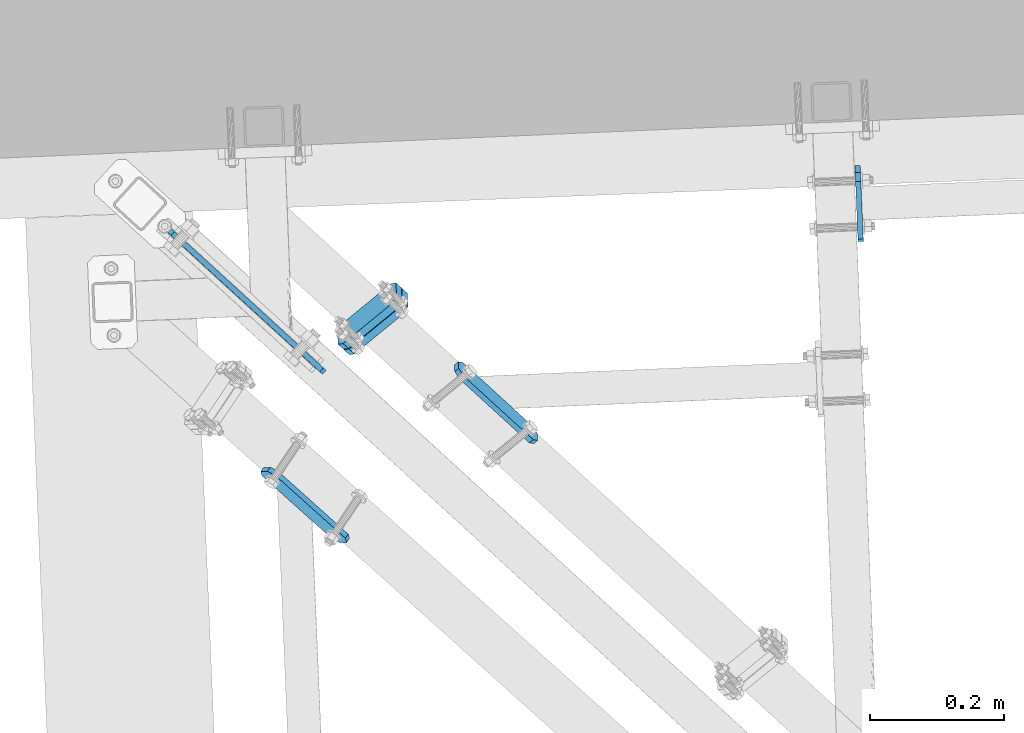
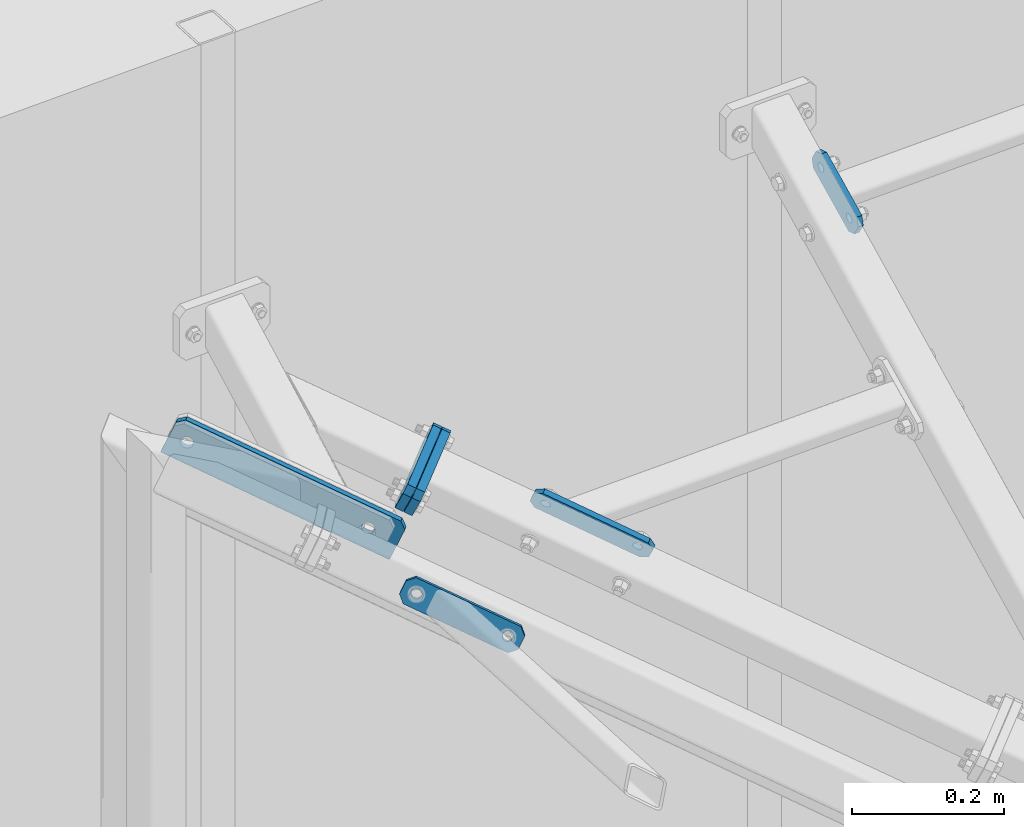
# One storey, part 58 of 288: 6 plates, 38 openings.
"""IFC2X3 building model written with IfcOpenShell, lengths in millimetres."""

from ifc_helpers import new_model, entity, si_unit, converted_unit, point, frame, frame_2d, origin, origin_with_axes, origin_2d_with_axis, place, context, project, spatial, polyline, circle_curve, line_curve, trimmed, segment, composite_curve, circle, outline, extrude, material, layer, layer_set, element, save


model = new_model("IFC2X3")

# Units and contexts
model_context = context("Model", 3, precision=1e-09, world=origin_with_axes())
ifc_project = project(units=[si_unit("LENGTHUNIT", "METRE", prefix="MILLI"), si_unit("AREAUNIT", "SQUARE_METRE"), si_unit("VOLUMEUNIT", "CUBIC_METRE"), converted_unit("PLANEANGLEUNIT", "DEGREE", entity("IfcPlaneAngleMeasure", 0.01745329), si_unit("PLANEANGLEUNIT", "RADIAN"), dimensions=[0, 0, 0, 0, 0, 0, 0])], contexts=[model_context])

# Site, building, storey
site_placement = place(None, origin_with_axes())
site = spatial("IfcSite", under=ifc_project, at=site_placement, Name="Remont ?wietlik?w nad MC w NCPP w Opolu", CompositionType="ELEMENT")
building_placement = place(site_placement, origin_with_axes())
building = spatial("IfcBuilding", under=site, at=building_placement, Name="Konstrukcja 1", CompositionType="ELEMENT")
storey_placement = place(building_placement, origin_with_axes())
storey = spatial("IfcBuildingStorey", under=building, at=storey_placement, Name="Default Storey", CompositionType="ELEMENT", Elevation=0.0)

# Plate, openings
ifc_material = material(Name="S235")
ifc_layer_1 = layer(ifc_material, 8.0)
ifc_layer_set_1 = layer_set([ifc_layer_1], Name="S235")
plate_1_placement = place(None, frame((359.884385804, 15401.200278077, 1177.019893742), z_axis=(-0.999102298, -0.042361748, 0.000284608), x_axis=(0.021561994, -0.502733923, 0.864172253)))
plate_1 = element("IfcPlate", 1, at=plate_1_placement, inside=storey, material=ifc_layer_set_1, Name="-", ObjectType="-", context=model_context, shape_type="SweptSolid", body=[
    extrude(outline(polyline([(0.0, 0.0), (40.0, 0.0), (40.0, 120.0), (0.0, 120.0), (0.0, 0.0)])), origin_with_axes(), (0.0, 0.0, 1.0), 8.0),
])
opening_1_placement = place(plate_1_placement, frame((0.0, 0.0, -0.01), z_axis=(0.0, 0.0, 1.0), x_axis=(1.0, 0.0, 0.0)))
element("IfcOpeningElement", 2, at=opening_1_placement, cuts=plate_1, ObjectType="Opening", context=model_context, shape_type="SweptSolid", body=[
    extrude(outline(composite_curve([segment(trimmed(line_curve((0.0, 0.0), (1.0, 0.0), 10.0), [point((0.0, 0.0))], [point((10.0, 0.0))], True, "CARTESIAN"), True, "CONTINUOUS"), segment(trimmed(circle_curve(frame_2d((10.0, 10.0), x_axis=(-1.0, 0.0)), 10.0), [point((10.0, 0.0))], [point((0.0, 10.0))], False, "CARTESIAN"), True, "CONTINUOUS"), segment(trimmed(line_curve((0.0, 10.0), (0.0, -1.0), 10.0), [point((0.0, 10.0))], [point((0.0, 0.0))], True, "CARTESIAN"), True, "CONTINUOUS")], self_intersect=False)), origin(), (0.0, 0.0, 1.0), 8.02),
])
opening_2_placement = place(plate_1_placement, frame((0.0, 0.0, -0.01), z_axis=(0.0, 0.0, 1.0), x_axis=(1.0, 0.0, 0.0)))
element("IfcOpeningElement", 3, at=opening_2_placement, cuts=plate_1, ObjectType="Opening", context=model_context, shape_type="SweptSolid", body=[
    extrude(outline(composite_curve([segment(trimmed(line_curve((40.0, 0.0), (0.0, 1.0), 10.0), [point((40.0, 0.0))], [point((40.0, 10.0))], True, "CARTESIAN"), True, "CONTINUOUS"), segment(trimmed(circle_curve(frame_2d((30.0, 10.0), x_axis=(-1.0, 0.0)), 10.0), [point((40.0, 10.0))], [point((30.0, 0.0))], False, "CARTESIAN"), True, "CONTINUOUS"), segment(trimmed(line_curve((30.0, 0.0), (1.0, 0.0), 10.0), [point((30.0, 0.0))], [point((40.0, 0.0))], True, "CARTESIAN"), True, "CONTINUOUS")], self_intersect=False)), origin(), (0.0, 0.0, 1.0), 8.02),
])
opening_3_placement = place(plate_1_placement, frame((0.0, 0.0, -0.01), z_axis=(0.0, 0.0, 1.0), x_axis=(1.0, 0.0, 0.0)))
element("IfcOpeningElement", 4, at=opening_3_placement, cuts=plate_1, ObjectType="Opening", context=model_context, shape_type="SweptSolid", body=[
    extrude(outline(composite_curve([segment(trimmed(line_curve((40.0, 120.0), (-1.0, 0.0), 10.0), [point((40.0, 120.0))], [point((30.0, 120.0))], True, "CARTESIAN"), True, "CONTINUOUS"), segment(trimmed(circle_curve(frame_2d((30.0, 110.0), x_axis=(-1.0, 0.0)), 10.0), [point((30.0, 120.0))], [point((40.0, 110.0))], False, "CARTESIAN"), True, "CONTINUOUS"), segment(trimmed(line_curve((40.0, 110.0), (0.0, 1.0), 10.0), [point((40.0, 110.0))], [point((40.0, 120.0))], True, "CARTESIAN"), True, "CONTINUOUS")], self_intersect=False)), origin(), (0.0, 0.0, 1.0), 8.02),
])
opening_4_placement = place(plate_1_placement, frame((0.0, 0.0, -0.01), z_axis=(0.0, 0.0, 1.0), x_axis=(1.0, 0.0, 0.0)))
element("IfcOpeningElement", 5, at=opening_4_placement, cuts=plate_1, ObjectType="Opening", context=model_context, shape_type="SweptSolid", body=[
    extrude(outline(composite_curve([segment(trimmed(line_curve((0.0, 120.0), (0.0, -1.0), 10.0), [point((0.0, 120.0))], [point((0.0, 110.0))], True, "CARTESIAN"), True, "CONTINUOUS"), segment(trimmed(circle_curve(frame_2d((10.0, 110.0), x_axis=(-1.0, 0.0)), 10.0), [point((0.0, 110.0))], [point((10.0, 120.0))], False, "CARTESIAN"), True, "CONTINUOUS"), segment(trimmed(line_curve((10.0, 120.0), (-1.0, 0.0), 10.0), [point((10.0, 120.0))], [point((0.0, 120.0))], True, "CARTESIAN"), True, "CONTINUOUS")], self_intersect=False)), origin(), (0.0, 0.0, 1.0), 8.02),
])
opening_5_placement = place(plate_1_placement, frame((20.0, 60.0, -0.5), z_axis=(0.0, 0.0, 1.0), x_axis=(1.0, 0.0, 0.0)))
element("IfcOpeningElement", 6, at=opening_5_placement, cuts=plate_1, ObjectType="Opening", context=model_context, shape_type="SweptSolid", body=[
    extrude(circle(Radius=7.001, at=frame_2d((0.0, 40.0), x_axis=(1.0, 0.0))), origin(), (0.0, 0.0, 1.0), 9.0),
])
opening_6_placement = place(plate_1_placement, frame((20.0, 60.0, -0.5), z_axis=(0.0, 0.0, 1.0), x_axis=(1.0, 0.0, 0.0)))
element("IfcOpeningElement", 7, at=opening_6_placement, cuts=plate_1, ObjectType="Opening", context=model_context, shape_type="SweptSolid", body=[
    extrude(circle(Radius=7.001, at=frame_2d((0.0, -40.0), x_axis=(1.0, 0.0))), origin(), (0.0, 0.0, 1.0), 9.0),
])

ifc_layer_2 = layer(ifc_material, 12.0)
ifc_layer_set_2 = layer_set([ifc_layer_2], Name="S235")
plate_2_placement = place(None, frame((-329.708297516, 15291.556240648, 1185.327062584), z_axis=(-0.683038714, 0.625065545, 0.37782427), x_axis=(-0.019762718, 0.501290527, -0.865053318)))
plate_2 = element("IfcPlate", 8, at=plate_2_placement, inside=storey, material=ifc_layer_set_2, Name="Endplate#1", ObjectType="Endplate#1", context=model_context, shape_type="SweptSolid", body=[
    extrude(outline(polyline([(0.0, 0.0), (60.0, 0.0), (60.0, 120.0), (0.0, 120.0), (0.0, 0.0)])), origin_with_axes(), (0.0, 0.0, 1.0), 12.0),
])
opening_7_placement = place(plate_2_placement, frame((0.0, 0.0, -0.01), z_axis=(0.0, 0.0, 1.0), x_axis=(1.0, 0.0, 0.0)))
element("IfcOpeningElement", 9, at=opening_7_placement, cuts=plate_2, ObjectType="Opening", context=model_context, shape_type="SweptSolid", body=[
    extrude(outline(composite_curve([segment(trimmed(line_curve((0.0, 0.0), (1.0, 0.0), 10.0), [point((0.0, 0.0))], [point((10.0, 0.0))], True, "CARTESIAN"), True, "CONTINUOUS"), segment(trimmed(circle_curve(frame_2d((10.0, 10.0), x_axis=(-1.0, 0.0)), 10.0), [point((10.0, 0.0))], [point((0.0, 10.0))], False, "CARTESIAN"), True, "CONTINUOUS"), segment(trimmed(line_curve((0.0, 10.0), (0.0, -1.0), 10.0), [point((0.0, 10.0))], [point((0.0, 0.0))], True, "CARTESIAN"), True, "CONTINUOUS")], self_intersect=False)), origin(), (0.0, 0.0, 1.0), 12.02),
])
opening_8_placement = place(plate_2_placement, frame((0.0, 0.0, -0.01), z_axis=(0.0, 0.0, 1.0), x_axis=(1.0, 0.0, 0.0)))
element("IfcOpeningElement", 10, at=opening_8_placement, cuts=plate_2, ObjectType="Opening", context=model_context, shape_type="SweptSolid", body=[
    extrude(outline(composite_curve([segment(trimmed(line_curve((60.0, 0.0), (0.0, 1.0), 10.0), [point((60.0, 0.0))], [point((60.0, 10.0))], True, "CARTESIAN"), True, "CONTINUOUS"), segment(trimmed(circle_curve(frame_2d((50.0, 10.0), x_axis=(-1.0, 0.0)), 10.0), [point((60.0, 10.0))], [point((50.0, 0.0))], False, "CARTESIAN"), True, "CONTINUOUS"), segment(trimmed(line_curve((50.0, 0.0), (1.0, 0.0), 10.0), [point((50.0, 0.0))], [point((60.0, 0.0))], True, "CARTESIAN"), True, "CONTINUOUS")], self_intersect=False)), origin(), (0.0, 0.0, 1.0), 12.02),
])
opening_9_placement = place(plate_2_placement, frame((0.0, 0.0, -0.01), z_axis=(0.0, 0.0, 1.0), x_axis=(1.0, 0.0, 0.0)))
element("IfcOpeningElement", 11, at=opening_9_placement, cuts=plate_2, ObjectType="Opening", context=model_context, shape_type="SweptSolid", body=[
    extrude(outline(composite_curve([segment(trimmed(line_curve((0.0, 120.0), (0.0, -1.0), 10.0), [point((0.0, 120.0))], [point((0.0, 110.0))], True, "CARTESIAN"), True, "CONTINUOUS"), segment(trimmed(circle_curve(frame_2d((10.0, 110.0), x_axis=(-1.0, 0.0)), 10.0), [point((0.0, 110.0))], [point((10.0, 120.0))], False, "CARTESIAN"), True, "CONTINUOUS"), segment(trimmed(line_curve((10.0, 120.0), (-1.0, 0.0), 10.0), [point((10.0, 120.0))], [point((0.0, 120.0))], True, "CARTESIAN"), True, "CONTINUOUS")], self_intersect=False)), origin(), (0.0, 0.0, 1.0), 12.02),
])
opening_10_placement = place(plate_2_placement, frame((0.0, 0.0, -0.01), z_axis=(0.0, 0.0, 1.0), x_axis=(1.0, 0.0, 0.0)))
element("IfcOpeningElement", 12, at=opening_10_placement, cuts=plate_2, ObjectType="Opening", context=model_context, shape_type="SweptSolid", body=[
    extrude(outline(composite_curve([segment(trimmed(line_curve((60.0, 120.0), (-1.0, 0.0), 10.0), [point((60.0, 120.0))], [point((50.0, 120.0))], True, "CARTESIAN"), True, "CONTINUOUS"), segment(trimmed(circle_curve(frame_2d((50.0, 110.0), x_axis=(-1.0, 0.0)), 10.0), [point((50.0, 120.0))], [point((60.0, 110.0))], False, "CARTESIAN"), True, "CONTINUOUS"), segment(trimmed(line_curve((60.0, 110.0), (0.0, 1.0), 10.0), [point((60.0, 110.0))], [point((60.0, 120.0))], True, "CARTESIAN"), True, "CONTINUOUS")], self_intersect=False)), origin(), (0.0, 0.0, 1.0), 12.02),
])
opening_11_placement = place(plate_2_placement, frame((15.0, 60.0, 12.5), z_axis=(0.0, 0.0, -1.0), x_axis=(1.0, 0.0, 0.0)))
element("IfcOpeningElement", 13, at=opening_11_placement, cuts=plate_2, ObjectType="Opening", context=model_context, shape_type="SweptSolid", body=[
    extrude(circle(Radius=6.001, at=frame_2d((0.0, 45.0), x_axis=(1.0, 0.0))), origin(), (0.0, 0.0, 1.0), 13.0),
])
opening_12_placement = place(plate_2_placement, frame((15.0, 60.0, 12.5), z_axis=(0.0, 0.0, -1.0), x_axis=(1.0, 0.0, 0.0)))
element("IfcOpeningElement", 14, at=opening_12_placement, cuts=plate_2, ObjectType="Opening", context=model_context, shape_type="SweptSolid", body=[
    extrude(circle(Radius=6.001, at=frame_2d((0.0, -45.0), x_axis=(1.0, 0.0))), origin(), (0.0, 0.0, 1.0), 13.0),
])
opening_13_placement = place(plate_2_placement, frame((45.0, 60.0, 12.5), z_axis=(0.0, 0.0, -1.0), x_axis=(1.0, 0.0, 0.0)))
element("IfcOpeningElement", 15, at=opening_13_placement, cuts=plate_2, ObjectType="Opening", context=model_context, shape_type="SweptSolid", body=[
    extrude(circle(Radius=6.001, at=frame_2d((0.0, 45.0), x_axis=(1.0, 0.0))), origin(), (0.0, 0.0, 1.0), 13.0),
])
opening_14_placement = place(plate_2_placement, frame((45.0, 60.0, 12.5), z_axis=(0.0, 0.0, -1.0), x_axis=(1.0, 0.0, 0.0)))
element("IfcOpeningElement", 16, at=opening_14_placement, cuts=plate_2, ObjectType="Opening", context=model_context, shape_type="SweptSolid", body=[
    extrude(circle(Radius=6.001, at=frame_2d((0.0, -45.0), x_axis=(1.0, 0.0))), origin(), (0.0, 0.0, 1.0), 13.0),
])

plate_3_placement = place(None, frame((-320.828794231, 15283.430388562, 1180.415347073), z_axis=(-0.683038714, 0.625065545, 0.37782427), x_axis=(-0.019762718, 0.501290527, -0.865053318)))
plate_3 = element("IfcPlate", 17, at=plate_3_placement, inside=storey, material=ifc_layer_set_2, Name="Endplate#2", ObjectType="Endplate#2", context=model_context, shape_type="SweptSolid", body=[
    extrude(outline(polyline([(0.0, 0.0), (60.0, 0.0), (60.0, 120.0), (0.0, 120.0), (0.0, 0.0)])), origin_with_axes(), (0.0, 0.0, 1.0), 12.0),
])
opening_15_placement = place(plate_3_placement, frame((0.0, 0.0, -0.01), z_axis=(0.0, 0.0, 1.0), x_axis=(1.0, 0.0, 0.0)))
element("IfcOpeningElement", 18, at=opening_15_placement, cuts=plate_3, ObjectType="Opening", context=model_context, shape_type="SweptSolid", body=[
    extrude(outline(composite_curve([segment(trimmed(line_curve((0.0, 0.0), (1.0, 0.0), 10.0), [point((0.0, 0.0))], [point((10.0, 0.0))], True, "CARTESIAN"), True, "CONTINUOUS"), segment(trimmed(circle_curve(frame_2d((10.0, 10.0), x_axis=(-1.0, 0.0)), 10.0), [point((10.0, 0.0))], [point((0.0, 10.0))], False, "CARTESIAN"), True, "CONTINUOUS"), segment(trimmed(line_curve((0.0, 10.0), (0.0, -1.0), 10.0), [point((0.0, 10.0))], [point((0.0, 0.0))], True, "CARTESIAN"), True, "CONTINUOUS")], self_intersect=False)), origin(), (0.0, 0.0, 1.0), 12.02),
])
opening_16_placement = place(plate_3_placement, frame((0.0, 0.0, -0.01), z_axis=(0.0, 0.0, 1.0), x_axis=(1.0, 0.0, 0.0)))
element("IfcOpeningElement", 19, at=opening_16_placement, cuts=plate_3, ObjectType="Opening", context=model_context, shape_type="SweptSolid", body=[
    extrude(outline(composite_curve([segment(trimmed(line_curve((60.0, 0.0), (0.0, 1.0), 10.0), [point((60.0, 0.0))], [point((60.0, 10.0))], True, "CARTESIAN"), True, "CONTINUOUS"), segment(trimmed(circle_curve(frame_2d((50.0, 10.0), x_axis=(-1.0, 0.0)), 10.0), [point((60.0, 10.0))], [point((50.0, 0.0))], False, "CARTESIAN"), True, "CONTINUOUS"), segment(trimmed(line_curve((50.0, 0.0), (1.0, 0.0), 10.0), [point((50.0, 0.0))], [point((60.0, 0.0))], True, "CARTESIAN"), True, "CONTINUOUS")], self_intersect=False)), origin(), (0.0, 0.0, 1.0), 12.02),
])
opening_17_placement = place(plate_3_placement, frame((0.0, 0.0, -0.01), z_axis=(0.0, 0.0, 1.0), x_axis=(1.0, 0.0, 0.0)))
element("IfcOpeningElement", 20, at=opening_17_placement, cuts=plate_3, ObjectType="Opening", context=model_context, shape_type="SweptSolid", body=[
    extrude(outline(composite_curve([segment(trimmed(line_curve((0.0, 120.0), (0.0, -1.0), 10.0), [point((0.0, 120.0))], [point((0.0, 110.0))], True, "CARTESIAN"), True, "CONTINUOUS"), segment(trimmed(circle_curve(frame_2d((10.0, 110.0), x_axis=(-1.0, 0.0)), 10.0), [point((0.0, 110.0))], [point((10.0, 120.0))], False, "CARTESIAN"), True, "CONTINUOUS"), segment(trimmed(line_curve((10.0, 120.0), (-1.0, 0.0), 10.0), [point((10.0, 120.0))], [point((0.0, 120.0))], True, "CARTESIAN"), True, "CONTINUOUS")], self_intersect=False)), origin(), (0.0, 0.0, 1.0), 12.02),
])
opening_18_placement = place(plate_3_placement, frame((0.0, 0.0, -0.01), z_axis=(0.0, 0.0, 1.0), x_axis=(1.0, 0.0, 0.0)))
element("IfcOpeningElement", 21, at=opening_18_placement, cuts=plate_3, ObjectType="Opening", context=model_context, shape_type="SweptSolid", body=[
    extrude(outline(composite_curve([segment(trimmed(line_curve((60.0, 120.0), (-1.0, 0.0), 10.0), [point((60.0, 120.0))], [point((50.0, 120.0))], True, "CARTESIAN"), True, "CONTINUOUS"), segment(trimmed(circle_curve(frame_2d((50.0, 110.0), x_axis=(-1.0, 0.0)), 10.0), [point((50.0, 120.0))], [point((60.0, 110.0))], False, "CARTESIAN"), True, "CONTINUOUS"), segment(trimmed(line_curve((60.0, 110.0), (0.0, 1.0), 10.0), [point((60.0, 110.0))], [point((60.0, 120.0))], True, "CARTESIAN"), True, "CONTINUOUS")], self_intersect=False)), origin(), (0.0, 0.0, 1.0), 12.02),
])
opening_19_placement = place(plate_3_placement, frame((15.0, 60.0, 12.5), z_axis=(0.0, 0.0, -1.0), x_axis=(1.0, 0.0, 0.0)))
element("IfcOpeningElement", 22, at=opening_19_placement, cuts=plate_3, ObjectType="Opening", context=model_context, shape_type="SweptSolid", body=[
    extrude(circle(Radius=6.001, at=frame_2d((0.0, 45.0), x_axis=(1.0, 0.0))), origin(), (0.0, 0.0, 1.0), 13.0),
])
opening_20_placement = place(plate_3_placement, frame((15.0, 60.0, 12.5), z_axis=(0.0, 0.0, -1.0), x_axis=(1.0, 0.0, 0.0)))
element("IfcOpeningElement", 23, at=opening_20_placement, cuts=plate_3, ObjectType="Opening", context=model_context, shape_type="SweptSolid", body=[
    extrude(circle(Radius=6.001, at=frame_2d((0.0, -45.0), x_axis=(1.0, 0.0))), origin(), (0.0, 0.0, 1.0), 13.0),
])
opening_21_placement = place(plate_3_placement, frame((45.0, 60.0, 12.5), z_axis=(0.0, 0.0, -1.0), x_axis=(1.0, 0.0, 0.0)))
element("IfcOpeningElement", 24, at=opening_21_placement, cuts=plate_3, ObjectType="Opening", context=model_context, shape_type="SweptSolid", body=[
    extrude(circle(Radius=6.001, at=frame_2d((0.0, 45.0), x_axis=(1.0, 0.0))), origin(), (0.0, 0.0, 1.0), 13.0),
])
opening_22_placement = place(plate_3_placement, frame((45.0, 60.0, 12.5), z_axis=(0.0, 0.0, -1.0), x_axis=(1.0, 0.0, 0.0)))
element("IfcOpeningElement", 25, at=opening_22_placement, cuts=plate_3, ObjectType="Opening", context=model_context, shape_type="SweptSolid", body=[
    extrude(circle(Radius=6.001, at=frame_2d((0.0, -45.0), x_axis=(1.0, 0.0))), origin(), (0.0, 0.0, 1.0), 13.0),
])

plate_4_placement = place(None, frame((-542.073020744, 15047.669749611, 1125.505769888), z_axis=(-0.526192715, -0.786860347, 0.322446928), x_axis=(0.688159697, -0.616779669, -0.38212442)))
plate_4 = element("IfcPlate", 26, at=plate_4_placement, inside=storey, material=ifc_layer_set_1, Name="-", ObjectType="-", context=model_context, shape_type="SweptSolid", body=[
    extrude(outline(polyline([(0.0, 0.0), (172.338943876, 0.0), (172.338943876, 39.999320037), (0.0, 39.999320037), (0.0, 0.0)])), origin_with_axes(), (0.0, 0.0, 1.0), 8.0),
])
opening_23_placement = place(plate_4_placement, frame((20.0, 19.999660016, -0.5), z_axis=(0.0, 0.0, 1.0), x_axis=(1.0, 0.0, 0.0)))
element("IfcOpeningElement", 27, at=opening_23_placement, cuts=plate_4, ObjectType="Opening", context=model_context, shape_type="SweptSolid", body=[
    extrude(circle(Radius=7.001, at=origin_2d_with_axis()), origin(), (0.0, 0.0, 1.0), 9.0),
])
opening_24_placement = place(plate_4_placement, frame((145.337943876, 19.999320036, 8.5), z_axis=(0.0, 0.0, 1.0), x_axis=(1.0, 0.0, 0.0)))
element("IfcOpeningElement", 28, at=opening_24_placement, cuts=plate_4, ObjectType="Opening", context=model_context, shape_type="SweptSolid", body=[
    extrude(circle(Radius=7.001, at=frame_2d((7.001, 0.0), x_axis=(1.0, 0.0))), origin(), (0.0, 0.0, -1.0), 9.0),
])
opening_25_placement = place(plate_4_placement, frame((0.0, 0.0, -0.01), z_axis=(0.0, 0.0, 1.0), x_axis=(1.0, 0.0, 0.0)))
element("IfcOpeningElement", 29, at=opening_25_placement, cuts=plate_4, ObjectType="Opening", context=model_context, shape_type="SweptSolid", body=[
    extrude(outline(composite_curve([segment(trimmed(line_curve((0.0, 0.0), (1.0, 0.0), 10.0), [point((0.0, 0.0))], [point((10.0, 0.0))], True, "CARTESIAN"), True, "CONTINUOUS"), segment(trimmed(circle_curve(frame_2d((10.0, 10.0), x_axis=(-1.0, 0.0)), 10.0), [point((10.0, 0.0))], [point((0.0, 10.0))], False, "CARTESIAN"), True, "CONTINUOUS"), segment(trimmed(line_curve((0.0, 10.0), (0.0, -1.0), 10.0), [point((0.0, 10.0))], [point((0.0, 0.0))], True, "CARTESIAN"), True, "CONTINUOUS")], self_intersect=False)), origin(), (0.0, 0.0, 1.0), 8.02),
])
opening_26_placement = place(plate_4_placement, frame((0.0, 0.0, -0.01), z_axis=(0.0, 0.0, 1.0), x_axis=(1.0, 0.0, 0.0)))
element("IfcOpeningElement", 30, at=opening_26_placement, cuts=plate_4, ObjectType="Opening", context=model_context, shape_type="SweptSolid", body=[
    extrude(outline(composite_curve([segment(trimmed(line_curve((0.0, 39.999320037), (0.0, -1.0), 10.0), [point((0.0, 39.999320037))], [point((0.0, 29.999320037))], True, "CARTESIAN"), True, "CONTINUOUS"), segment(trimmed(circle_curve(frame_2d((10.0, 29.999320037), x_axis=(-1.0, 0.0)), 10.0), [point((0.0, 29.999320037))], [point((10.0, 39.999320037))], False, "CARTESIAN"), True, "CONTINUOUS"), segment(trimmed(line_curve((10.0, 39.999320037), (-1.0, 0.0), 10.0), [point((10.0, 39.999320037))], [point((0.0, 39.999320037))], True, "CARTESIAN"), True, "CONTINUOUS")], self_intersect=False)), origin(), (0.0, 0.0, 1.0), 8.02),
])
opening_27_placement = place(plate_4_placement, frame((0.0, 0.0, -0.01), z_axis=(0.0, 0.0, 1.0), x_axis=(1.0, 0.0, 0.0)))
element("IfcOpeningElement", 31, at=opening_27_placement, cuts=plate_4, ObjectType="Opening", context=model_context, shape_type="SweptSolid", body=[
    extrude(outline(composite_curve([segment(trimmed(line_curve((172.338943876, 0.0), (0.0, 1.0), 10.0), [point((172.338943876, 0.0))], [point((172.338943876, 10.0))], True, "CARTESIAN"), True, "CONTINUOUS"), segment(trimmed(circle_curve(frame_2d((162.338943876, 10.0), x_axis=(-1.0, 0.0)), 10.0), [point((172.338943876, 10.0))], [point((162.338943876, 0.0))], False, "CARTESIAN"), True, "CONTINUOUS"), segment(trimmed(line_curve((162.338943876, 0.0), (1.0, 0.0), 10.0), [point((162.338943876, 0.0))], [point((172.338943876, 0.0))], True, "CARTESIAN"), True, "CONTINUOUS")], self_intersect=False)), origin(), (0.0, 0.0, 1.0), 8.02),
])
opening_28_placement = place(plate_4_placement, frame((0.0, 0.0, -0.01), z_axis=(0.0, 0.0, 1.0), x_axis=(1.0, 0.0, 0.0)))
element("IfcOpeningElement", 32, at=opening_28_placement, cuts=plate_4, ObjectType="Opening", context=model_context, shape_type="SweptSolid", body=[
    extrude(outline(composite_curve([segment(trimmed(line_curve((172.338943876, 39.999320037), (-1.0, 0.0), 10.0), [point((172.338943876, 39.999320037))], [point((162.338943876, 39.999320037))], True, "CARTESIAN"), True, "CONTINUOUS"), segment(trimmed(circle_curve(frame_2d((162.338943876, 29.999320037), x_axis=(-1.0, 0.0)), 10.0), [point((162.338943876, 39.999320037))], [point((172.338943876, 29.999320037))], False, "CARTESIAN"), True, "CONTINUOUS"), segment(trimmed(line_curve((172.338943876, 29.999320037), (0.0, 1.0), 10.0), [point((172.338943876, 29.999320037))], [point((172.338943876, 39.999320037))], True, "CARTESIAN"), True, "CONTINUOUS")], self_intersect=False)), origin(), (0.0, 0.0, 1.0), 8.02),
])

plate_5_placement = place(None, frame((-245.737825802, 15211.346233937, 1081.6749553), z_axis=(-0.730029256, -0.598486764, -0.329955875), x_axis=(0.683078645, -0.62382612, -0.379795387)))
plate_5 = element("IfcPlate", 33, at=plate_5_placement, inside=storey, material=ifc_layer_set_1, Name="-", ObjectType="-", context=model_context, shape_type="SweptSolid", body=[
    extrude(outline(polyline([(0.0, 0.0), (173.000364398, 0.0), (173.000364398, 39.992662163), (0.0, 39.992662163), (0.0, 0.0)])), origin_with_axes(), (0.0, 0.0, 1.0), 8.0),
])
opening_29_placement = place(plate_5_placement, frame((12.999, 19.998165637, 8.5), z_axis=(0.0, 0.0, 1.0), x_axis=(1.0, 0.0, 0.0)))
element("IfcOpeningElement", 34, at=opening_29_placement, cuts=plate_5, ObjectType="Opening", context=model_context, shape_type="SweptSolid", body=[
    extrude(circle(Radius=7.001, at=frame_2d((7.001, 0.0), x_axis=(1.0, 0.0))), origin(), (0.0, 0.0, -1.0), 9.0),
])
opening_30_placement = place(plate_5_placement, frame((145.948746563, 22.006178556, 8.5), z_axis=(0.0, 0.0, 1.0), x_axis=(1.0, 0.0, 0.0)))
element("IfcOpeningElement", 35, at=opening_30_placement, cuts=plate_5, ObjectType="Opening", context=model_context, shape_type="SweptSolid", body=[
    extrude(circle(Radius=7.001, at=frame_2d((7.001, 0.0), x_axis=(1.0, 0.0))), origin(), (0.0, 0.0, -1.0), 9.0),
])
opening_31_placement = place(plate_5_placement, frame((0.0, 0.0, -0.01), z_axis=(0.0, 0.0, 1.0), x_axis=(1.0, 0.0, 0.0)))
element("IfcOpeningElement", 36, at=opening_31_placement, cuts=plate_5, ObjectType="Opening", context=model_context, shape_type="SweptSolid", body=[
    extrude(outline(composite_curve([segment(trimmed(line_curve((173.000364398, 39.992662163), (-1.0, 0.0), 10.0), [point((173.000364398, 39.992662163))], [point((163.000364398, 39.992662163))], True, "CARTESIAN"), True, "CONTINUOUS"), segment(trimmed(circle_curve(frame_2d((163.000364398, 29.992662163), x_axis=(-1.0, 0.0)), 10.0), [point((163.000364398, 39.992662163))], [point((173.000364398, 29.992662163))], False, "CARTESIAN"), True, "CONTINUOUS"), segment(trimmed(line_curve((173.000364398, 29.992662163), (0.0, 1.0), 10.0), [point((173.000364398, 29.992662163))], [point((173.000364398, 39.992662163))], True, "CARTESIAN"), True, "CONTINUOUS")], self_intersect=False)), origin(), (0.0, 0.0, 1.0), 8.02),
])
opening_32_placement = place(plate_5_placement, frame((0.0, 0.0, -0.01), z_axis=(0.0, 0.0, 1.0), x_axis=(1.0, 0.0, 0.0)))
element("IfcOpeningElement", 37, at=opening_32_placement, cuts=plate_5, ObjectType="Opening", context=model_context, shape_type="SweptSolid", body=[
    extrude(outline(composite_curve([segment(trimmed(line_curve((173.000364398, 0.0), (0.0, 1.0), 10.0), [point((173.000364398, 0.0))], [point((173.000364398, 10.0))], True, "CARTESIAN"), True, "CONTINUOUS"), segment(trimmed(circle_curve(frame_2d((163.000364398, 10.0), x_axis=(-1.0, 0.0)), 10.0), [point((173.000364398, 10.0))], [point((163.000364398, 0.0))], False, "CARTESIAN"), True, "CONTINUOUS"), segment(trimmed(line_curve((163.000364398, 0.0), (1.0, 0.0), 10.0), [point((163.000364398, 0.0))], [point((173.000364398, 0.0))], True, "CARTESIAN"), True, "CONTINUOUS")], self_intersect=False)), origin(), (0.0, 0.0, 1.0), 8.02),
])
opening_33_placement = place(plate_5_placement, frame((0.0, 0.0, -0.01), z_axis=(0.0, 0.0, 1.0), x_axis=(1.0, 0.0, 0.0)))
element("IfcOpeningElement", 38, at=opening_33_placement, cuts=plate_5, ObjectType="Opening", context=model_context, shape_type="SweptSolid", body=[
    extrude(outline(composite_curve([segment(trimmed(line_curve((0.0, 39.992662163), (0.0, -1.0), 10.0), [point((0.0, 39.992662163))], [point((0.0, 29.992662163))], True, "CARTESIAN"), True, "CONTINUOUS"), segment(trimmed(circle_curve(frame_2d((10.0, 29.992662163), x_axis=(-1.0, 0.0)), 10.0), [point((0.0, 29.992662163))], [point((10.0, 39.992662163))], False, "CARTESIAN"), True, "CONTINUOUS"), segment(trimmed(line_curve((10.0, 39.992662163), (-1.0, 0.0), 10.0), [point((10.0, 39.992662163))], [point((0.0, 39.992662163))], True, "CARTESIAN"), True, "CONTINUOUS")], self_intersect=False)), origin(), (0.0, 0.0, 1.0), 8.02),
])
opening_34_placement = place(plate_5_placement, frame((0.0, 0.0, -0.01), z_axis=(0.0, 0.0, 1.0), x_axis=(1.0, 0.0, 0.0)))
element("IfcOpeningElement", 39, at=opening_34_placement, cuts=plate_5, ObjectType="Opening", context=model_context, shape_type="SweptSolid", body=[
    extrude(outline(composite_curve([segment(trimmed(line_curve((0.0, 0.0), (1.0, 0.0), 10.0), [point((0.0, 0.0))], [point((10.0, 0.0))], True, "CARTESIAN"), True, "CONTINUOUS"), segment(trimmed(circle_curve(frame_2d((10.0, 10.0), x_axis=(-1.0, 0.0)), 10.0), [point((10.0, 0.0))], [point((0.0, 10.0))], False, "CARTESIAN"), True, "CONTINUOUS"), segment(trimmed(line_curve((0.0, 10.0), (0.0, -1.0), 10.0), [point((0.0, 10.0))], [point((0.0, 0.0))], True, "CARTESIAN"), True, "CONTINUOUS")], self_intersect=False)), origin(), (0.0, 0.0, 1.0), 8.02),
])

plate_6_placement = place(None, frame((-685.799259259, 15414.724718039, 1193.847767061), z_axis=(-0.67400264, -0.738719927, 0.003648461), x_axis=(0.682725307, -0.62478468, -0.378853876)))
plate_6 = element("IfcPlate", 40, at=plate_6_placement, inside=storey, material=ifc_layer_set_1, Name="Plate", ObjectType="Plate", context=model_context, shape_type="SweptSolid", body=[
    extrude(outline(polyline([(0.0, 0.0), (332.3, 0.0), (332.3, 65.0), (0.0, 65.0), (0.0, 0.0)])), origin_with_axes(), (0.0, 0.0, 1.0), 8.0),
])
opening_35_placement = place(plate_6_placement, frame((0.0, 0.0, -0.01), z_axis=(0.0, 0.0, 1.0), x_axis=(1.0, 0.0, 0.0)))
element("IfcOpeningElement", 41, at=opening_35_placement, cuts=plate_6, ObjectType="Opening", context=model_context, shape_type="SweptSolid", body=[
    extrude(outline(composite_curve([segment(trimmed(line_curve((0.0, 65.0), (0.0, -1.0), 10.0), [point((0.0, 65.0))], [point((0.0, 55.0))], True, "CARTESIAN"), True, "CONTINUOUS"), segment(trimmed(circle_curve(frame_2d((10.0, 55.0), x_axis=(-1.0, 0.0)), 10.0), [point((0.0, 55.0))], [point((10.0, 65.0))], False, "CARTESIAN"), True, "CONTINUOUS"), segment(trimmed(line_curve((10.0, 65.0), (-1.0, 0.0), 10.0), [point((10.0, 65.0))], [point((0.0, 65.0))], True, "CARTESIAN"), True, "CONTINUOUS")], self_intersect=False)), origin(), (0.0, 0.0, 1.0), 8.02),
])
opening_36_placement = place(plate_6_placement, frame((0.0, 0.0, -0.01), z_axis=(0.0, 0.0, 1.0), x_axis=(1.0, 0.0, 0.0)))
element("IfcOpeningElement", 42, at=opening_36_placement, cuts=plate_6, ObjectType="Opening", context=model_context, shape_type="SweptSolid", body=[
    extrude(outline(composite_curve([segment(trimmed(line_curve((332.3, 65.0), (-1.0, 0.0), 10.0), [point((332.3, 65.0))], [point((322.3, 65.0))], True, "CARTESIAN"), True, "CONTINUOUS"), segment(trimmed(circle_curve(frame_2d((322.3, 55.0), x_axis=(-1.0, 0.0)), 10.0), [point((322.3, 65.0))], [point((332.3, 55.0))], False, "CARTESIAN"), True, "CONTINUOUS"), segment(trimmed(line_curve((332.3, 55.0), (0.0, 1.0), 10.0), [point((332.3, 55.0))], [point((332.3, 65.0))], True, "CARTESIAN"), True, "CONTINUOUS")], self_intersect=False)), origin(), (0.0, 0.0, 1.0), 8.02),
])
opening_37_placement = place(plate_6_placement, frame((288.199417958, 32.200010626, -0.5), z_axis=(0.0, 0.0, 1.0), x_axis=(0.0, 1.0, 0.0)))
element("IfcOpeningElement", 43, at=opening_37_placement, cuts=plate_6, ObjectType="Opening", context=model_context, shape_type="SweptSolid", body=[
    extrude(circle(Radius=9.001, at=origin_2d_with_axis()), origin(), (0.0, 0.0, 1.0), 9.0),
])
opening_38_placement = place(plate_6_placement, frame((24.704230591, 32.5, -0.5), z_axis=(0.0, 0.0, 1.0), x_axis=(0.0, 1.0, 0.0)))
element("IfcOpeningElement", 44, at=opening_38_placement, cuts=plate_6, ObjectType="Opening", context=model_context, shape_type="SweptSolid", body=[
    extrude(circle(Radius=9.001, at=origin_2d_with_axis()), origin(), (0.0, 0.0, 1.0), 9.0),
])

save(model, "model.ifc")
